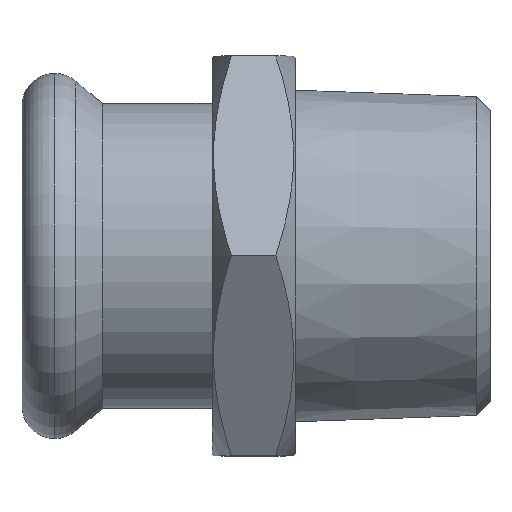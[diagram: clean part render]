
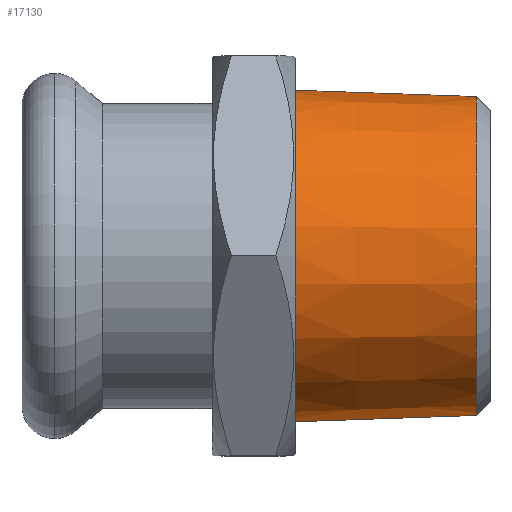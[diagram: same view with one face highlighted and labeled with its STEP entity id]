
A CAD part, top view. The second image highlights one B-rep face of the part: STEP entity #17130.
In plain terms, the highlighted conical face has half-angle 1.998 degrees and reference radius 17 mm.
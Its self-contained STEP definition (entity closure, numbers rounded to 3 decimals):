
#370=CARTESIAN_POINT('',(-73.071,-319.306,
0.));
#380=DIRECTION('',(-1.,0.,0.));
#390=DIRECTION('',(0.,-1.,0.));
#400=AXIS2_PLACEMENT_3D('',#370,#380,#390);
#410=CONICAL_SURFACE('',#400,17.,0.035);
#420=CARTESIAN_POINT('',(-73.071,-302.306,
0.));
#430=DIRECTION('',(-0.999,0.035,
0.));
#440=VECTOR('',#430,487.63);
#450=LINE('',#420,#440);
#460=CARTESIAN_POINT('',(-54.47,-302.955,
0.));
#470=VERTEX_POINT('',#460);
#480=CARTESIAN_POINT('',(-73.071,-302.306,
0.));
#490=VERTEX_POINT('',#480);
#500=EDGE_CURVE('',#470,#490,#450,.T.);
#520=CARTESIAN_POINT('',(-73.071,-319.306,
0.));
#530=DIRECTION('',(-1.,0.,0.));
#540=DIRECTION('',(0.,-1.,0.));
#550=AXIS2_PLACEMENT_3D('',#520,#530,#540);
#560=CIRCLE('',#550,17.);
#570=CARTESIAN_POINT('',(-73.071,-336.306,
0.));
#580=VERTEX_POINT('',#570);
#610=CARTESIAN_POINT('',(-73.071,-336.306,
0.));
#620=DIRECTION('',(-0.999,-0.035,
0.));
#630=VECTOR('',#620,487.63);
#640=LINE('',#610,#630);
#650=CARTESIAN_POINT('',(-54.47,-335.657,
0.));
#660=VERTEX_POINT('',#650);
#670=EDGE_CURVE('',#660,#580,#640,.T.);
#690=CARTESIAN_POINT('',(-54.47,-319.306,
0.));
#700=DIRECTION('',(-1.,0.,0.));
#710=DIRECTION('',(0.,-1.,0.));
#720=AXIS2_PLACEMENT_3D('',#690,#700,#710);
#730=CIRCLE('',#720,16.351);
#13620=CARTESIAN_POINT('',(-73.071,-310.806,
14.722));
#13630=VERTEX_POINT('',#13620);
#13640=EDGE_CURVE('',#13630,#490,#560,.T.);
#13660=EDGE_CURVE('',#580,#13630,#560,.T.);
#17050=ORIENTED_EDGE('',*,*,#13640,.F.);
#17060=ORIENTED_EDGE('',*,*,#500,.T.);
#17070=EDGE_CURVE('',#660,#470,#730,.T.);
#17080=ORIENTED_EDGE('',*,*,#17070,.T.);
#17090=ORIENTED_EDGE('',*,*,#670,.F.);
#17100=ORIENTED_EDGE('',*,*,#13660,.F.);
#17110=EDGE_LOOP('',(#17100,#17090,#17080,#17060,#17050));
#17120=FACE_OUTER_BOUND('',#17110,.T.);
#17130=ADVANCED_FACE('',(#17120),#410,.T.);
